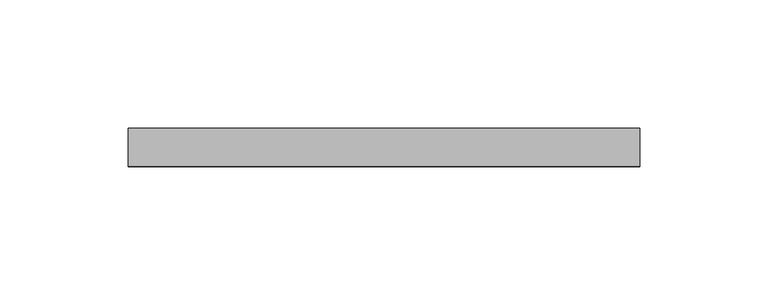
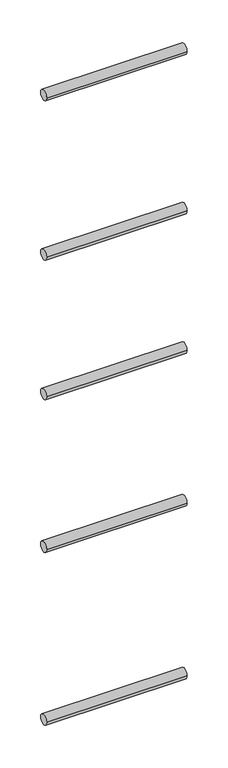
"""IFC4 building model written with IfcOpenShell, lengths in millimetres: railing geometry, ARQ-BA-IN-HiGal-Varillas."""

from ifc_helpers import new_model, si_unit, point, frame, frame_2d, origin, place, context, project, spatial, circle_curve, trimmed, segment, composite_curve, outline, extrude, source, transform, mapped, element, save


def railing_c106fec5(model_context):
    return source(origin(), model_context, "Body", "SweptSolid", [
        extrude(outline(composite_curve([segment(trimmed(circle_curve(frame_2d((1484.5940615, 6112.5)), 7.5), [point((1492.0940615, 6112.5))], [point((1477.0940615, 6112.5))], False, "CARTESIAN"), True, "CONTINUOUS"), segment(trimmed(circle_curve(frame_2d((1484.5940615, 6112.5)), 7.5), [point((1477.0940615, 6112.5))], [point((1492.0940615, 6112.5))], False, "CARTESIAN"), True, "CONTINUOUS")], self_intersect=False)), frame((14764.8707806, 0.0, 0.0), z_axis=(1.0, 0.0, 0.0), x_axis=(0.0, 1.0, 0.0)), (0.0, 0.0, 1.0), 199.9418456),
        extrude(outline(composite_curve([segment(trimmed(circle_curve(frame_2d((1484.5940615, 5872.5)), 7.5), [point((1492.0940615, 5872.5))], [point((1477.0940615, 5872.5))], False, "CARTESIAN"), True, "CONTINUOUS"), segment(trimmed(circle_curve(frame_2d((1484.5940615, 5872.5)), 7.5), [point((1477.0940615, 5872.5))], [point((1492.0940615, 5872.5))], False, "CARTESIAN"), True, "CONTINUOUS")], self_intersect=False)), frame((14764.8707806, 0.0, 0.0), z_axis=(1.0, 0.0, 0.0), x_axis=(0.0, 1.0, 0.0)), (0.0, 0.0, 1.0), 199.9418456),
        extrude(outline(composite_curve([segment(trimmed(circle_curve(frame_2d((1484.5940615, 5662.5)), 7.5), [point((1492.0940615, 5662.5))], [point((1477.0940615, 5662.5))], False, "CARTESIAN"), True, "CONTINUOUS"), segment(trimmed(circle_curve(frame_2d((1484.5940615, 5662.5)), 7.5), [point((1477.0940615, 5662.5))], [point((1492.0940615, 5662.5))], False, "CARTESIAN"), True, "CONTINUOUS")], self_intersect=False)), frame((14764.8707806, 0.0, 0.0), z_axis=(1.0, 0.0, 0.0), x_axis=(0.0, 1.0, 0.0)), (0.0, 0.0, 1.0), 199.9418456),
        extrude(outline(composite_curve([segment(trimmed(circle_curve(frame_2d((1484.5940615, 5432.5)), 7.5), [point((1492.0940615, 5432.5))], [point((1477.0940615, 5432.5))], False, "CARTESIAN"), True, "CONTINUOUS"), segment(trimmed(circle_curve(frame_2d((1484.5940615, 5432.5)), 7.5), [point((1477.0940615, 5432.5))], [point((1492.0940615, 5432.5))], False, "CARTESIAN"), True, "CONTINUOUS")], self_intersect=False)), frame((14764.8707806, 0.0, 0.0), z_axis=(1.0, 0.0, 0.0), x_axis=(0.0, 1.0, 0.0)), (0.0, 0.0, 1.0), 199.9418456),
        extrude(outline(composite_curve([segment(trimmed(circle_curve(frame_2d((1484.5940615, 5172.5)), 7.5), [point((1492.0940615, 5172.5))], [point((1477.0940615, 5172.5))], False, "CARTESIAN"), True, "CONTINUOUS"), segment(trimmed(circle_curve(frame_2d((1484.5940615, 5172.5)), 7.5), [point((1477.0940615, 5172.5))], [point((1492.0940615, 5172.5))], False, "CARTESIAN"), True, "CONTINUOUS")], self_intersect=False)), frame((14764.8707806, 0.0, 0.0), z_axis=(1.0, 0.0, 0.0), x_axis=(0.0, 1.0, 0.0)), (0.0, 0.0, 1.0), 199.9418456),
    ])


if __name__ == "__main__":
    model = new_model("IFC4")
    model_context = context("Model", 3, world=origin())
    ifc_project = project(units=[si_unit("LENGTHUNIT", "METRE", prefix="MILLI")], contexts=[model_context])
    site = spatial("IfcSite", under=ifc_project)
    building = spatial("IfcBuilding", under=site)
    placement = place(None, origin())
    railing_shape = railing_c106fec5(model_context)
    element("IfcRailing", 1, ObjectType="ARQ-BA-IN-HiGal-Varillas", at=placement, inside=building, context=model_context, shape_type="MappedRepresentation", body=[
        mapped(railing_shape, transform((0.0, 0.0, 0.0), x_axis=(1.0, 0.0, 0.0), y_axis=(0.0, 1.0, 0.0), z_axis=(0.0, 0.0, 1.0))),
    ])
    save(model, "model.ifc")
